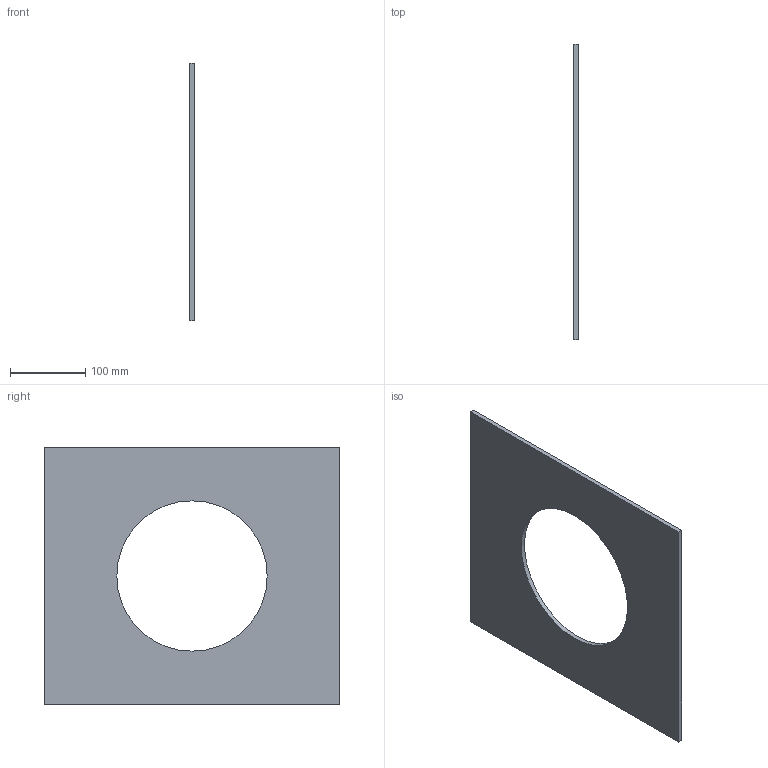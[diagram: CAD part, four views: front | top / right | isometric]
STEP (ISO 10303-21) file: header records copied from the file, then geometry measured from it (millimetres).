
FILE_DESCRIPTION(('Open CASCADE Model'),'2;1');
FILE_NAME('Open CASCADE Shape Model','2026-10-16T18:03:45',('Author'),( 'Open CASCADE'),'Open CASCADE STEP processor 7.8','Open CASCADE 7.8' ,'Unknown');
FILE_SCHEMA(('AUTOMOTIVE_DESIGN { 1 0 10303 214 1 1 1 1 }'));
Length unit declared in the file: millimetre
Products named in the file (1): Open CASCADE STEP translator 7.8 33
Bounding box: 6 x 392 x 342 mm (x, y, z)
Volume: 615888.4 mm3; surface area: 217874.1 mm2
Topology: 1 solids, 1 shells, 7 faces, 15 edges, 10 vertices
Faces by surface type: plane 6, cylinder 1
Full cylindrical faces by diameter (mm): 200 x1
Entity records: 400 total; most frequent: CARTESIAN_POINT 63, DIRECTION 63, LINE 41, VECTOR 41, ORIENTED_EDGE 30, PCURVE 30, DEFINITIONAL_REPRESENTATION 30, EDGE_CURVE 15
